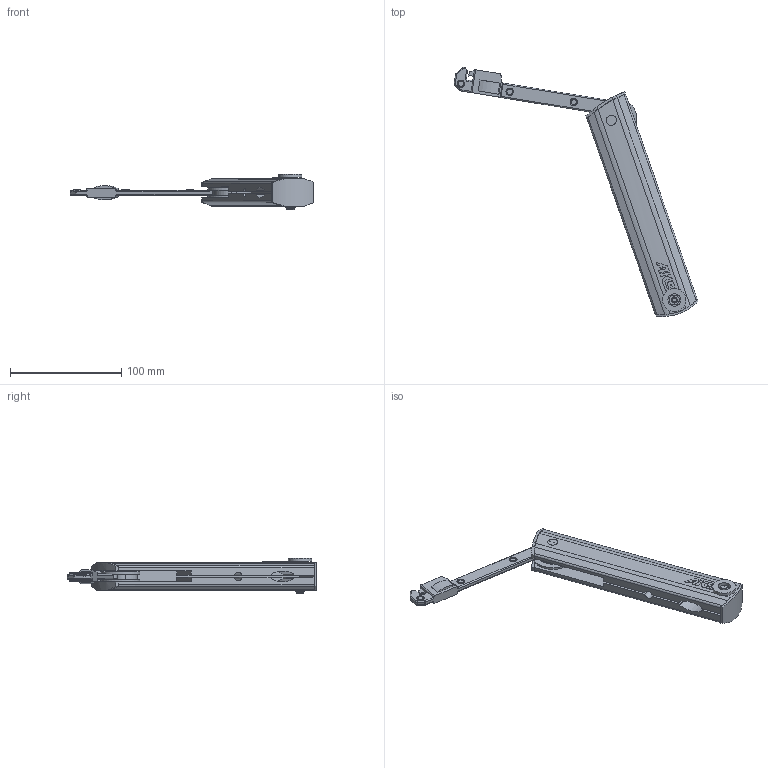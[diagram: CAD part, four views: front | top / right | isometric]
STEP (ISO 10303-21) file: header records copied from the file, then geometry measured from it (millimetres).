
FILE_DESCRIPTION(/* description */ (''),/* implementation_level */ '2;1');
FILE_NAME(/* name */ 'C:\Users\dmitruk\Documents\WORK\Подъемники\Подъемники\Подъемник KRONOS открыто.stp',/* time_stamp */ '2022-08-03T15:18:17+03:00',/* author */ ('dmitruk'),/* organization */ (''),/* preprocessor_version */ 'ST-DEVELOPER v16.5',/* originating_system */ 'Autodesk Inventor 2017',/* authorisation */ '');
FILE_SCHEMA (('AUTOMOTIVE_DESIGN { 1 0 10303 214 3 1 1 }'));
Length unit declared in the file: millimetre
Products named in the file (7): Подъемник KRONOS; Рычаг; основание; Рычаг_1; Кольцо; Шайба; винт KRONOS
Assembly tree (6 placements, depth 3):
  Подъемник KRONOS
    Рычаг
      основание
      Рычаг_1
    Кольцо
    Шайба
    винт KRONOS
Bounding box: 219.43 x 224.17 x 32.1 mm (x, y, z)
Volume: 161984.9 mm3; surface area: 56331.1 mm2
Topology: 12 solids, 12 shells, 387 faces, 996 edges, 649 vertices
Faces by surface type: plane 187, cylinder 168, bspline 23, torus 9
Full cylindrical faces by diameter (mm): 3.6 x14, 4.935 x6, 5.5 x4, 5.863 x1, 6.687 x6, 7 x1, 8.817 x1, 8.911 x2, 9.056 x4, 11.313 x1, 20.977 x1, 35.18 x2
Entity records: 13409 total; most frequent: CARTESIAN_POINT 4512, ORIENTED_EDGE 1838, DIRECTION 1747, EDGE_CURVE 913, AXIS2_PLACEMENT_3D 648, VERTEX_POINT 611, LINE 451, VECTOR 451
